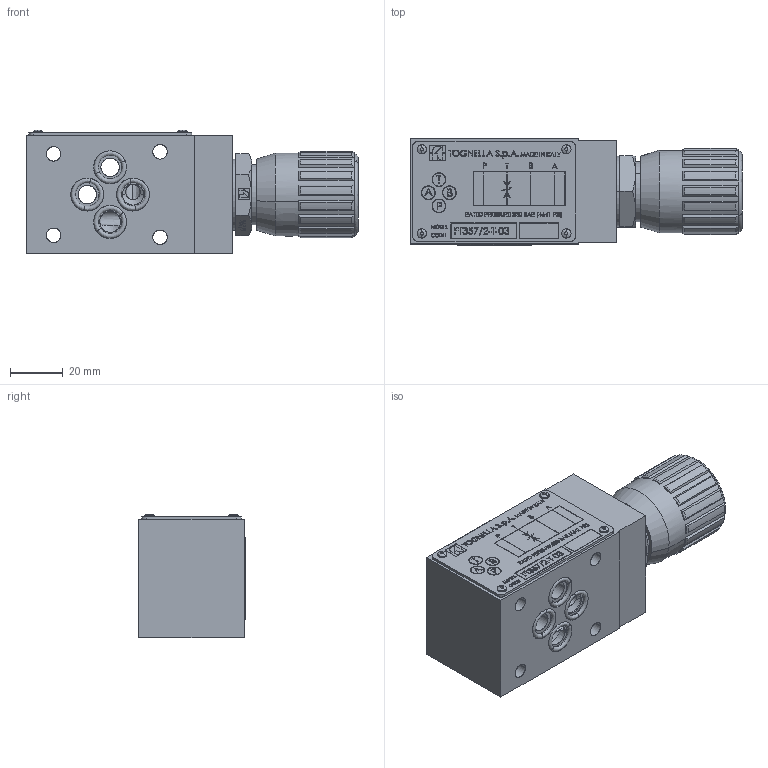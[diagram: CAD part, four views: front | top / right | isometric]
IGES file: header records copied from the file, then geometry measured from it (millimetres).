
Start section: SolidWorks IGES file using analytic representation for surfaces
Global section: file name: C:\Users\user\Desktop\FT357-2\FT357-2-T-03.IGS; native system: SolidWorks 2014; preprocessor: SolidWorks 2014; author: user; date: 140616.160811; units: millimetre
Bounding box: 126.3 x 40.38 x 46.96 mm (x, y, z)
Surface area: 50901.2 mm2 (no closed solid volume)
Topology: 0 solids, 0 shells, 1987 faces, 22067 edges, 22051 vertices
Faces by surface type: bspline 1638, revolution 349
